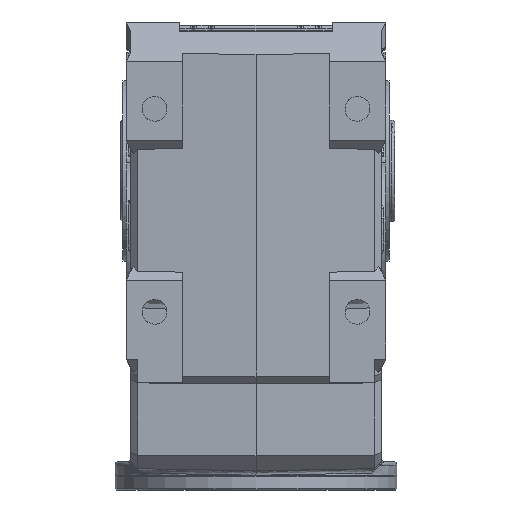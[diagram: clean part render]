
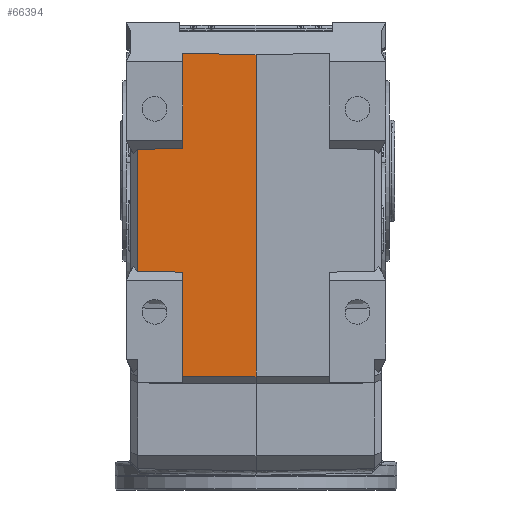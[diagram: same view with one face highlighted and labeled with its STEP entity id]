
A CAD part, front view. The second image highlights one B-rep face of the part: STEP entity #66394.
In plain terms, the highlighted planar face has unit normal (-0.018, -1, 0) as drawn and (0, -1, -0.017) by its records, which use the part's own axes.
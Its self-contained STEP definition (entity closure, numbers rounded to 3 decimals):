
#2413 = ORIENTED_EDGE ( 'NONE', *, *, #43184, .T. ) ;
#5556 = VERTEX_POINT ( 'NONE', #39871 ) ;
#7356 = VERTEX_POINT ( 'NONE', #11517 ) ;
#8240 = EDGE_CURVE ( 'NONE', #59546, #42401, #29699, .T. ) ;
#9719 = DIRECTION ( 'NONE',  ( 1., 0., 0. ) ) ;
#9739 = ORIENTED_EDGE ( 'NONE', *, *, #52228, .T. ) ;
#10873 = FACE_OUTER_BOUND ( 'NONE', #62179, .T. ) ;
#11090 = DIRECTION ( 'NONE',  ( 1., 0., 0. ) ) ;
#11517 = CARTESIAN_POINT ( 'NONE',  ( 89.807, -204.803, -65. ) ) ;
#12597 = VECTOR ( 'NONE', #60004, 1000. ) ;
#13635 = VECTOR ( 'NONE', #40566, 1000. ) ;
#14267 = EDGE_CURVE ( 'NONE', #59546, #51179, #60361, .T. ) ;
#15912 = ORIENTED_EDGE ( 'NONE', *, *, #39620, .T. ) ;
#17145 = CARTESIAN_POINT ( 'NONE',  ( 89.109, -204.105, -105.001 ) ) ;
#17180 = CARTESIAN_POINT ( 'NONE',  ( -103.059, -205.938, 0. ) ) ;
#17388 = LINE ( 'NONE', #46702, #65352 ) ;
#17901 = CARTESIAN_POINT ( 'NONE',  ( 182.004, -204.803, -65. ) ) ;
#18315 = CARTESIAN_POINT ( 'NONE',  ( 182.806, -205.938, 0. ) ) ;
#21225 = DIRECTION ( 'NONE',  ( -0.017, 0.017, -1. ) ) ;
#21449 = VECTOR ( 'NONE', #21225, 1000. ) ;
#21601 = CARTESIAN_POINT ( 'NONE',  ( -103.059, -205.938, 0. ) ) ;
#23814 = VECTOR ( 'NONE', #9719, 1000. ) ;
#24179 = CARTESIAN_POINT ( 'NONE',  ( 182.336, -204.803, -65. ) ) ;
#24850 = DIRECTION ( 'NONE',  ( -1., 0., 0. ) ) ;
#25219 = CARTESIAN_POINT ( 'NONE',  ( 182.004, -205.938, 0. ) ) ;
#25579 = ORIENTED_EDGE ( 'NONE', *, *, #8240, .T. ) ;
#27952 = DIRECTION ( 'NONE',  ( 0., -1., -0.017 ) ) ;
#28703 = VERTEX_POINT ( 'NONE', #17145 ) ;
#29699 = LINE ( 'NONE', #25219, #71825 ) ;
#30131 = CARTESIAN_POINT ( 'NONE',  ( -19.799, -204.803, -65. ) ) ;
#31261 = LINE ( 'NONE', #60564, #23814 ) ;
#31429 = CARTESIAN_POINT ( 'NONE',  ( 182.806, -205.938, 0. ) ) ;
#31962 = LINE ( 'NONE', #43821, #58685 ) ;
#33946 = LINE ( 'NONE', #55842, #41695 ) ;
#35906 = ORIENTED_EDGE ( 'NONE', *, *, #44269, .T. ) ;
#39620 = EDGE_CURVE ( 'NONE', #42401, #50784, #72466, .T. ) ;
#39871 = CARTESIAN_POINT ( 'NONE',  ( -19.101, -204.105, -105.001 ) ) ;
#40566 = DIRECTION ( 'NONE',  ( 1., 0., 0. ) ) ;
#41695 = VECTOR ( 'NONE', #56575, 1000. ) ;
#42083 = CARTESIAN_POINT ( 'NONE',  ( -104.193, -204.803, -65. ) ) ;
#42401 = VERTEX_POINT ( 'NONE', #17180 ) ;
#42668 = ORIENTED_EDGE ( 'NONE', *, *, #42679, .T. ) ;
#42679 = EDGE_CURVE ( 'NONE', #5556, #28703, #31261, .T. ) ;
#43184 = EDGE_CURVE ( 'NONE', #7356, #51179, #17388, .T. ) ;
#43821 = CARTESIAN_POINT ( 'NONE',  ( 89.109, -204.105, -105.001 ) ) ;
#44190 = DIRECTION ( 'NONE',  ( 0.017, -0.017, 1. ) ) ;
#44269 = EDGE_CURVE ( 'NONE', #51699, #5556, #33946, .T. ) ;
#46111 = LINE ( 'NONE', #17901, #13635 ) ;
#46702 = CARTESIAN_POINT ( 'NONE',  ( 132.004, -204.803, -65. ) ) ;
#50187 = AXIS2_PLACEMENT_3D ( 'NONE', #56173, #27952, #50225 ) ;
#50225 = DIRECTION ( 'NONE',  ( 0., 0.017, -1. ) ) ;
#50784 = VERTEX_POINT ( 'NONE', #42083 ) ;
#51179 = VERTEX_POINT ( 'NONE', #24179 ) ;
#51190 = EDGE_CURVE ( 'NONE', #28703, #7356, #31962, .T. ) ;
#51699 = VERTEX_POINT ( 'NONE', #30131 ) ;
#52228 = EDGE_CURVE ( 'NONE', #50784, #51699, #46111, .T. ) ;
#55842 = CARTESIAN_POINT ( 'NONE',  ( -19.799, -204.803, -65. ) ) ;
#56173 = CARTESIAN_POINT ( 'NONE',  ( 182.004, -204., -111. ) ) ;
#56575 = DIRECTION ( 'NONE',  ( 0.017, 0.017, -1. ) ) ;
#58685 = VECTOR ( 'NONE', #44190, 1000. ) ;
#59546 = VERTEX_POINT ( 'NONE', #18315 ) ;
#60004 = DIRECTION ( 'NONE',  ( -0.007, 0.017, -1. ) ) ;
#60361 = LINE ( 'NONE', #31429, #12597 ) ;
#60564 = CARTESIAN_POINT ( 'NONE',  ( 182.004, -204.105, -105.001 ) ) ;
#60911 = ORIENTED_EDGE ( 'NONE', *, *, #14267, .F. ) ;
#61303 = ORIENTED_EDGE ( 'NONE', *, *, #51190, .T. ) ;
#62179 = EDGE_LOOP ( 'NONE', ( #9739, #35906, #42668, #61303, #2413, #60911, #25579, #15912 ) ) ;
#65352 = VECTOR ( 'NONE', #11090, 1000. ) ;
#66394 = ADVANCED_FACE ( 'NONE', ( #10873 ), #72522, .T. ) ;
#71825 = VECTOR ( 'NONE', #24850, 1000. ) ;
#72466 = LINE ( 'NONE', #21601, #21449 ) ;
#72522 = PLANE ( 'NONE',  #50187 ) ;
